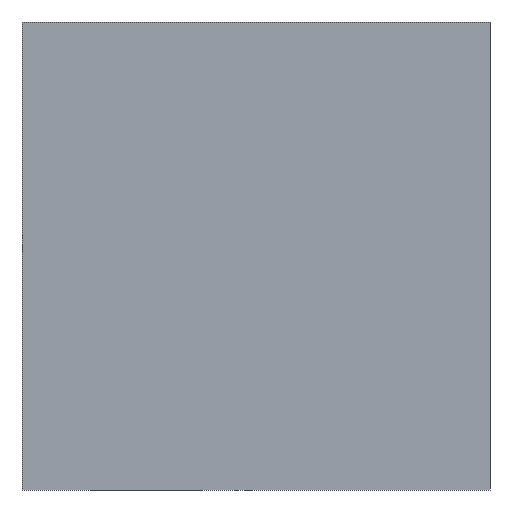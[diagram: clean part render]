
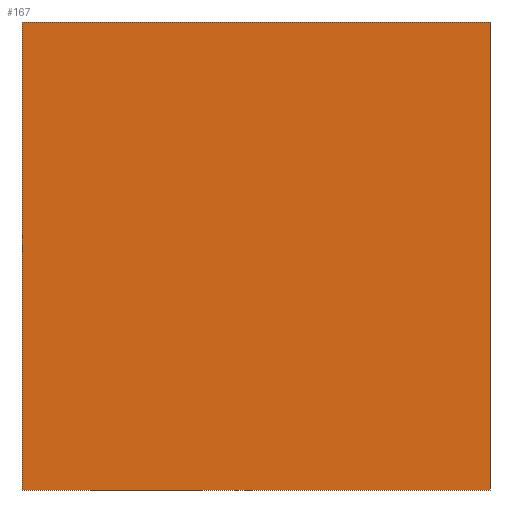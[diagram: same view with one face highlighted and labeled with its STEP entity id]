
A CAD part, front view. The second image highlights one B-rep face of the part: STEP entity #167.
In plain terms, the highlighted planar face has unit normal (0, -1, 0).
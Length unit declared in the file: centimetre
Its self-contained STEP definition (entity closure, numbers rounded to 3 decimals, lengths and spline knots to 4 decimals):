
#67 = DIRECTION ( 'NONE',  ( 1., 0., 0. ) ) ;
#161 = LINE ( 'NONE', #321, #810 ) ;
#167 = ADVANCED_FACE ( 'NONE', ( #382 ), #1045, .F. ) ;
#169 = LINE ( 'NONE', #801, #476 ) ;
#187 = DIRECTION ( 'NONE',  ( 1., 0., 0. ) ) ;
#193 = CARTESIAN_POINT ( 'NONE',  ( 1000., 0., 0. ) ) ;
#255 = VECTOR ( 'NONE', #187, 100. ) ;
#300 = CARTESIAN_POINT ( 'NONE',  ( 0., 0., 1000. ) ) ;
#321 = CARTESIAN_POINT ( 'NONE',  ( 1000., 0., 1000. ) ) ;
#350 = LINE ( 'NONE', #595, #381 ) ;
#381 = VECTOR ( 'NONE', #684, 100. ) ;
#382 = FACE_OUTER_BOUND ( 'NONE', #475, .T. ) ;
#421 = DIRECTION ( 'NONE',  ( 0., 1., 0. ) ) ;
#466 = VERTEX_POINT ( 'NONE', #862 ) ;
#475 = EDGE_LOOP ( 'NONE', ( #779, #959, #1010, #933 ) ) ;
#476 = VECTOR ( 'NONE', #67, 100. ) ;
#493 = CARTESIAN_POINT ( 'NONE',  ( 0., 0., 0. ) ) ;
#542 = VERTEX_POINT ( 'NONE', #953 ) ;
#571 = EDGE_CURVE ( 'NONE', #466, #897, #161, .T. ) ;
#577 = CARTESIAN_POINT ( 'NONE',  ( 0., 0., 0. ) ) ;
#595 = CARTESIAN_POINT ( 'NONE',  ( 0., 0., 1000. ) ) ;
#631 = EDGE_CURVE ( 'NONE', #542, #466, #169, .T. ) ;
#662 = DIRECTION ( 'NONE',  ( 0., 0., 1. ) ) ;
#684 = DIRECTION ( 'NONE',  ( 0., 0., -1. ) ) ;
#768 = EDGE_CURVE ( 'NONE', #798, #897, #931, .T. ) ;
#779 = ORIENTED_EDGE ( 'NONE', *, *, #768, .T. ) ;
#798 = VERTEX_POINT ( 'NONE', #577 ) ;
#801 = CARTESIAN_POINT ( 'NONE',  ( 0., 0., 1000. ) ) ;
#810 = VECTOR ( 'NONE', #1059, 100. ) ;
#824 = EDGE_CURVE ( 'NONE', #542, #798, #350, .T. ) ;
#862 = CARTESIAN_POINT ( 'NONE',  ( 1000., 0., 1000. ) ) ;
#897 = VERTEX_POINT ( 'NONE', #193 ) ;
#931 = LINE ( 'NONE', #493, #255 ) ;
#933 = ORIENTED_EDGE ( 'NONE', *, *, #824, .T. ) ;
#935 = AXIS2_PLACEMENT_3D ( 'NONE', #300, #421, #662 ) ;
#953 = CARTESIAN_POINT ( 'NONE',  ( 0., 0., 1000. ) ) ;
#959 = ORIENTED_EDGE ( 'NONE', *, *, #571, .F. ) ;
#1010 = ORIENTED_EDGE ( 'NONE', *, *, #631, .F. ) ;
#1045 = PLANE ( 'NONE',  #935 ) ;
#1059 = DIRECTION ( 'NONE',  ( 0., 0., -1. ) ) ;
